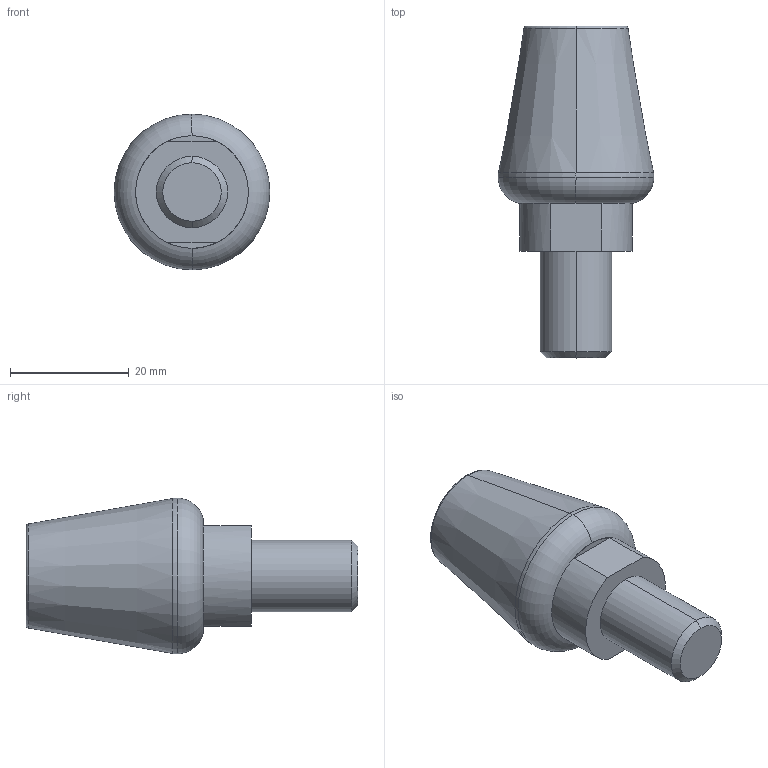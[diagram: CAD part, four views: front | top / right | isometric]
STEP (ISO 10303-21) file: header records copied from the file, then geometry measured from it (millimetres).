
FILE_DESCRIPTION(('CATIA V5 STEP Exchange'),'2;1');
FILE_NAME('C:\Users\Raffaele\Desktop\3D X SITO CF\384F\GSB_OILLESS_M31102012056\STEP-2.03\384F-1.stp','2019-07-05T08:38:16+00:00',('none'),('none'),'CATIA Version 5 Release 20 GA (IN-10)','CATIA V5 STEP AP203','none');
FILE_SCHEMA(('CONFIG_CONTROL_DESIGN'));
Length unit declared in the file: millimetre
Products named in the file (1): 384F-1
Bounding box: 26.27 x 56 x 26.27 mm (x, y, z)
Volume: 15911.2 mm3; surface area: 3979 mm2
Topology: 1 solids, 1 shells, 35 faces, 94 edges, 61 vertices
Faces by surface type: plane 19, cone 6, torus 6, cylinder 4
Entity records: 1106 total; most frequent: CARTESIAN_POINT 199, ORIENTED_EDGE 184, DIRECTION 160, EDGE_CURVE 92, AXIS2_PLACEMENT_3D 84, VERTEX_POINT 61, CIRCLE 48, VECTOR 42
